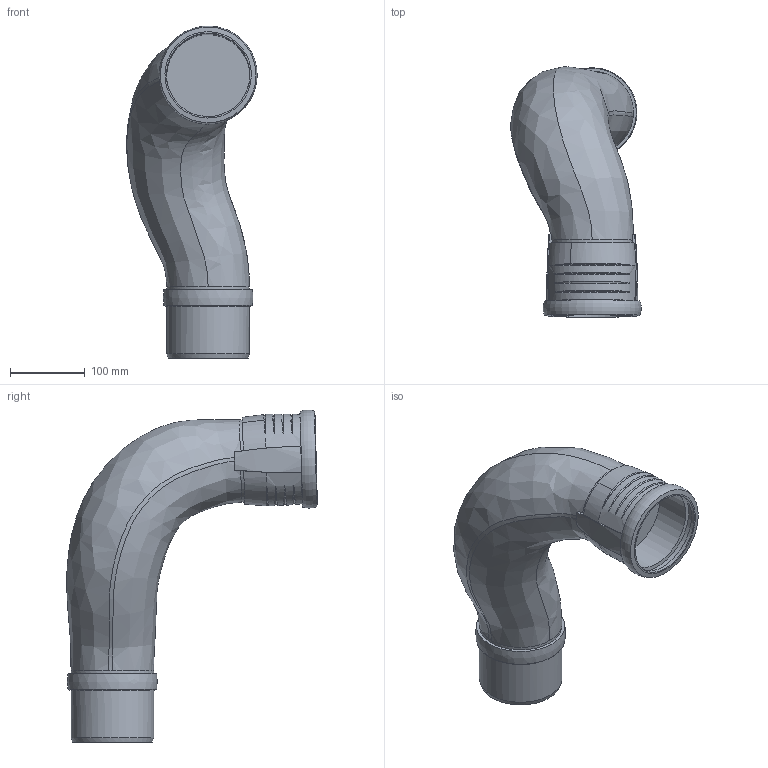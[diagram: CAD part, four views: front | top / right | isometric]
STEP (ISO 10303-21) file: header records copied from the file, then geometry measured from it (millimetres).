
FILE_DESCRIPTION(/* description */ (''),/* implementation_level */ '2;1');
FILE_NAME(/* name */ 'C:\Planerdaten\Export PLA\393.526.14.1\stp\393526.stp',/* time_stamp */ '2022-09-16T14:46:42+02:00',/* author */ ('JANAN'),/* organization */ (''),/* preprocessor_version */ 'ST-DEVELOPER v18.1',/* originating_system */ 'Autodesk Inventor 2021',/* authorisation */ '');
FILE_SCHEMA (('AUTOMOTIVE_DESIGN { 1 0 10303 214 3 1 1 }'));
Length unit declared in the file: millimetre
Products named in the file (1): tmp75D9.tmp
Bounding box: 174.05 x 334.4 x 442.93 mm (x, y, z)
Volume: 5597457.7 mm3; surface area: 301454.8 mm2
Topology: 1 solids, 1 shells, 58 faces, 152 edges, 102 vertices
Faces by surface type: bspline 34, cylinder 8, plane 7, cone 6, torus 2, sphere 1
Full cylindrical faces by diameter (mm): 101.2 x1, 110.2 x2, 111 x1, 111.3 x1, 121.5 x1
Entity records: 9853 total; most frequent: CARTESIAN_POINT 8503, ORIENTED_EDGE 306, DIRECTION 200, EDGE_CURVE 153, VERTEX_POINT 103, AXIS2_PLACEMENT_3D 90, B_SPLINE_CURVE_WITH_KNOTS 68, EDGE_LOOP 64
